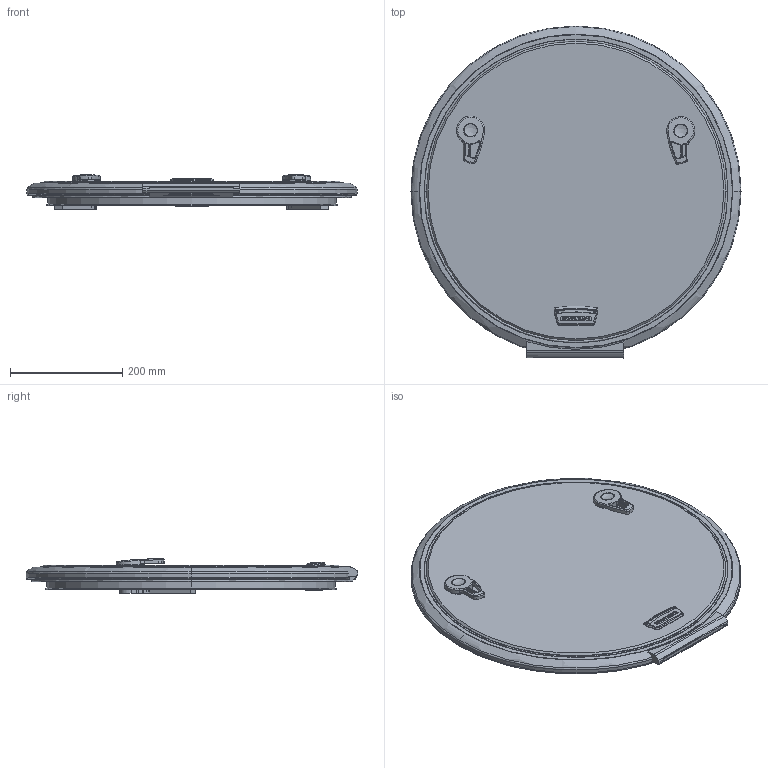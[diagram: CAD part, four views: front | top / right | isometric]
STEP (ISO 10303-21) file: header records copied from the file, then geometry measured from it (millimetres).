
FILE_DESCRIPTION((''),'2;1');
FILE_NAME('LEWMAR-HATCH-LOWPRO-22_ASM','2008-02-05T',('skennedy'),(''),'PRO/ENGINEER BY PARAMETRIC TECHNOLOGY CORPORATION, 2007030','PRO/ENGINEER BY PARAMETRIC TECHNOLOGY CORPORATION, 2007030','');
FILE_SCHEMA(('CONFIG_CONTROL_DESIGN'));
Length unit declared in the file: millimetre
Products named in the file (7): FRAME_22; 3592253X; HANDLE_LP_RHS; HANDLE_LP_LHS; HINGE_LEVER_LP; HINGE_22; LEWMAR-HATCH-LOWPRO-22_ASM
Assembly tree (6 placements, depth 2):
  LEWMAR-HATCH-LOWPRO-22_ASM
    FRAME_22
    3592253X
    HANDLE_LP_RHS
    HANDLE_LP_LHS
    HINGE_LEVER_LP
    HINGE_22
Bounding box: 588 x 591.38 x 61.17 mm (x, y, z)
Volume: 4330525.1 mm3; surface area: 920770.9 mm2
Topology: 6 solids, 6 shells, 681 faces, 1763 edges, 1110 vertices
Faces by surface type: plane 266, bspline 190, cylinder 120, cone 35, torus 33, extrusion 23, sphere 14
Entity records: 32508 total; most frequent: CARTESIAN_POINT 17308, ORIENTED_EDGE 3502, DIRECTION 2512, EDGE_CURVE 1751, VERTEX_POINT 1110, AXIS2_PLACEMENT_3D 915, EDGE_LOOP 739, VECTOR 682
